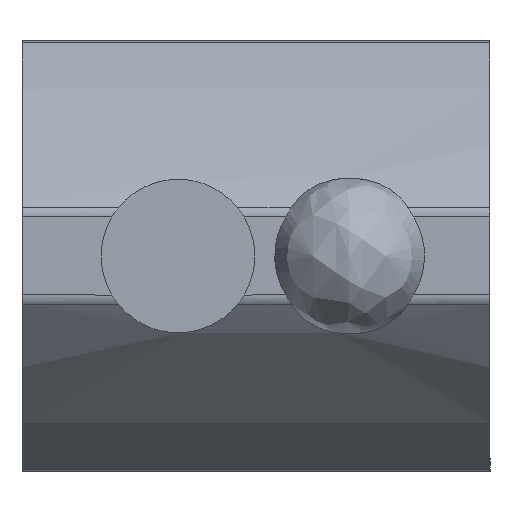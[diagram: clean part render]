
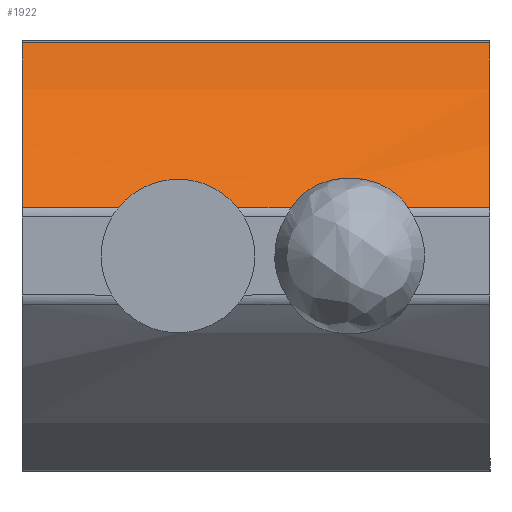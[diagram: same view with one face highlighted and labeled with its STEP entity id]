
A CAD part, left-side view. The second image highlights one B-rep face of the part: STEP entity #1922.
In plain terms, the highlighted cylindrical face has radius 20 mm (diameter 40 mm), a partial arc.
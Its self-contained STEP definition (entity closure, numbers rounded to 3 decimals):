
#6 = VERTEX_POINT ( 'NONE', #190 ) ;
#110 = CARTESIAN_POINT ( 'NONE',  ( -9.626, -8.938, -1.031 ) ) ;
#190 = CARTESIAN_POINT ( 'NONE',  ( -9.626, 6.062, -1.031 ) ) ;
#361 = ORIENTED_EDGE ( 'NONE', *, *, #1233, .T. ) ;
#418 = B_SPLINE_CURVE_WITH_KNOTS ( 'NONE', 3,
 ( #4752, #4823, #4781, #4849, #4845, #4890, #4856, #4921, #4902, #4973, #4968, #5410, #4999, #4991, #5020, #5016, #5405, #5425 ),
 .UNSPECIFIED., .F., .F.,
 ( 4, 2, 2, 2, 2, 2, 2, 2, 4 ),
 ( -0.002, -0.002, -0.001, -0.001, 0., 0.001, 0.001, 0.002, 0.002 ),
 .UNSPECIFIED. ) ;
#423 = ORIENTED_EDGE ( 'NONE', *, *, #3112, .T. ) ;
#497 = B_SPLINE_CURVE_WITH_KNOTS ( 'NONE', 3,
 ( #2908, #2789, #2770, #2721, #2696, #2673, #2401, #2353, #2326, #2300 ),
 .UNSPECIFIED., .F., .F.,
 ( 4, 2, 2, 2, 4 ),
 ( 0.001, 0.002, 0.002, 0.003, 0.003 ),
 .UNSPECIFIED. ) ;
#611 = LINE ( 'NONE', #6515, #4576 ) ;
#822 = ORIENTED_EDGE ( 'NONE', *, *, #4720, .T. ) ;
#886 = CARTESIAN_POINT ( 'NONE',  ( -14.975, -3.48, -5.554 ) ) ;
#898 = CARTESIAN_POINT ( 'NONE',  ( -15.043, -3.28, -5.636 ) ) ;
#912 = CARTESIAN_POINT ( 'NONE',  ( -15.131, -3.102, -5.743 ) ) ;
#929 = CARTESIAN_POINT ( 'NONE',  ( -15.337, -2.792, -6.002 ) ) ;
#973 = CARTESIAN_POINT ( 'NONE',  ( -15.574, -2.57, -6.313 ) ) ;
#1000 = CARTESIAN_POINT ( 'NONE',  ( -15.451, -2.667, -6.148 ) ) ;
#1233 = EDGE_CURVE ( 'NONE', #4429, #4412, #418, .T. ) ;
#1300 = LINE ( 'NONE', #6075, #2272 ) ;
#1318 = ORIENTED_EDGE ( 'NONE', *, *, #5620, .T. ) ;
#1319 = CARTESIAN_POINT ( 'NONE',  ( -14.975, -5.395, -5.554 ) ) ;
#1342 = CARTESIAN_POINT ( 'NONE',  ( 0.414, 6.062, -18.328 ) ) ;
#1348 = DIRECTION ( 'NONE',  ( 0., 0., -1. ) ) ;
#1370 = EDGE_CURVE ( 'NONE', #2418, #3776, #5181, .T. ) ;
#1402 = EDGE_LOOP ( 'NONE', ( #822, #361, #423, #3679, #5474, #2783, #4637, #1925, #1318, #1822 ) ) ;
#1449 = AXIS2_PLACEMENT_3D ( 'NONE', #1342, #1455, #1348 ) ;
#1455 = DIRECTION ( 'NONE',  ( 0., -1., 0. ) ) ;
#1476 = VECTOR ( 'NONE', #2914, 1000. ) ;
#1480 = EDGE_CURVE ( 'NONE', #3008, #1778, #5641, .T. ) ;
#1778 = VERTEX_POINT ( 'NONE', #2805 ) ;
#1791 = B_SPLINE_CURVE_WITH_KNOTS ( 'NONE', 3,
 ( #6023, #5951, #5492, #5444, #5011, #4505 ),
 .UNSPECIFIED., .F., .F.,
 ( 4, 2, 4 ),
 ( 0.003, 0.004, 0.005 ),
 .UNSPECIFIED. ) ;
#1822 = ORIENTED_EDGE ( 'NONE', *, *, #6324, .T. ) ;
#1916 = VERTEX_POINT ( 'NONE', #1319 ) ;
#1922 = ADVANCED_FACE ( 'NONE', ( #3364 ), #6462, .T. ) ;
#1925 = ORIENTED_EDGE ( 'NONE', *, *, #4492, .T. ) ;
#2272 = VECTOR ( 'NONE', #5963, 1000. ) ;
#2281 = DIRECTION ( 'NONE',  ( 0., 1., 0. ) ) ;
#2300 = CARTESIAN_POINT ( 'NONE',  ( -14.975, -5.395, -5.554 ) ) ;
#2303 = CIRCLE ( 'NONE', #5983, 20. ) ;
#2326 = CARTESIAN_POINT ( 'NONE',  ( -14.924, -5.247, -5.492 ) ) ;
#2336 = CARTESIAN_POINT ( 'NONE',  ( -15.574, 6.062, -6.313 ) ) ;
#2353 = CARTESIAN_POINT ( 'NONE',  ( -14.885, -5.093, -5.446 ) ) ;
#2401 = CARTESIAN_POINT ( 'NONE',  ( -14.832, -4.77, -5.384 ) ) ;
#2418 = VERTEX_POINT ( 'NONE', #3567 ) ;
#2673 = CARTESIAN_POINT ( 'NONE',  ( -14.819, -4.603, -5.368 ) ) ;
#2696 = CARTESIAN_POINT ( 'NONE',  ( -14.819, -4.272, -5.368 ) ) ;
#2721 = CARTESIAN_POINT ( 'NONE',  ( -14.832, -4.104, -5.384 ) ) ;
#2770 = CARTESIAN_POINT ( 'NONE',  ( -14.885, -3.782, -5.446 ) ) ;
#2783 = ORIENTED_EDGE ( 'NONE', *, *, #5538, .T. ) ;
#2789 = CARTESIAN_POINT ( 'NONE',  ( -14.924, -3.628, -5.492 ) ) ;
#2805 = CARTESIAN_POINT ( 'NONE',  ( -14.975, -3.48, -5.554 ) ) ;
#2872 = CARTESIAN_POINT ( 'NONE',  ( -15.574, 6.062, -6.313 ) ) ;
#2908 = CARTESIAN_POINT ( 'NONE',  ( -14.975, -3.48, -5.554 ) ) ;
#2914 = DIRECTION ( 'NONE',  ( 0., -1., 0. ) ) ;
#3008 = VERTEX_POINT ( 'NONE', #6426 ) ;
#3011 = LINE ( 'NONE', #5357, #3382 ) ;
#3112 = EDGE_CURVE ( 'NONE', #4412, #3008, #1300, .T. ) ;
#3364 = FACE_OUTER_BOUND ( 'NONE', #1402, .T. ) ;
#3382 = VECTOR ( 'NONE', #4735, 1000. ) ;
#3567 = CARTESIAN_POINT ( 'NONE',  ( -15.574, -6.305, -6.313 ) ) ;
#3679 = ORIENTED_EDGE ( 'NONE', *, *, #1480, .T. ) ;
#3776 = VERTEX_POINT ( 'NONE', #5900 ) ;
#4146 = CIRCLE ( 'NONE', #5887, 20. ) ;
#4242 = DIRECTION ( 'NONE',  ( 0., 0., -1. ) ) ;
#4309 = DIRECTION ( 'NONE',  ( 0., 1., 0. ) ) ;
#4354 = CARTESIAN_POINT ( 'NONE',  ( 0.414, -8.938, -18.328 ) ) ;
#4412 = VERTEX_POINT ( 'NONE', #6370 ) ;
#4429 = VERTEX_POINT ( 'NONE', #5950 ) ;
#4492 = EDGE_CURVE ( 'NONE', #3776, #6103, #2303, .T. ) ;
#4505 = CARTESIAN_POINT ( 'NONE',  ( -15.574, -6.305, -6.313 ) ) ;
#4527 = EDGE_CURVE ( 'NONE', #1778, #1916, #497, .T. ) ;
#4576 = VECTOR ( 'NONE', #2281, 1000. ) ;
#4637 = ORIENTED_EDGE ( 'NONE', *, *, #1370, .T. ) ;
#4720 = EDGE_CURVE ( 'NONE', #4901, #4429, #3011, .T. ) ;
#4735 = DIRECTION ( 'NONE',  ( 0., -1., 0. ) ) ;
#4752 = CARTESIAN_POINT ( 'NONE',  ( -15.574, 2.97, -6.313 ) ) ;
#4781 = CARTESIAN_POINT ( 'NONE',  ( -15.383, 2.744, -6.061 ) ) ;
#4823 = CARTESIAN_POINT ( 'NONE',  ( -15.476, 2.864, -6.182 ) ) ;
#4845 = CARTESIAN_POINT ( 'NONE',  ( -15.132, 2.324, -5.745 ) ) ;
#4849 = CARTESIAN_POINT ( 'NONE',  ( -15.211, 2.475, -5.843 ) ) ;
#4856 = CARTESIAN_POINT ( 'NONE',  ( -14.944, 1.822, -5.517 ) ) ;
#4890 = CARTESIAN_POINT ( 'NONE',  ( -14.999, 1.998, -5.582 ) ) ;
#4901 = VERTEX_POINT ( 'NONE', #2336 ) ;
#4902 = CARTESIAN_POINT ( 'NONE',  ( -14.85, 1.259, -5.405 ) ) ;
#4921 = CARTESIAN_POINT ( 'NONE',  ( -14.869, 1.45, -5.428 ) ) ;
#4968 = CARTESIAN_POINT ( 'NONE',  ( -14.869, 0.675, -5.428 ) ) ;
#4973 = CARTESIAN_POINT ( 'NONE',  ( -14.85, 0.866, -5.405 ) ) ;
#4991 = CARTESIAN_POINT ( 'NONE',  ( -15.132, -0.199, -5.745 ) ) ;
#4999 = CARTESIAN_POINT ( 'NONE',  ( -14.999, 0.127, -5.582 ) ) ;
#5011 = CARTESIAN_POINT ( 'NONE',  ( -15.451, -6.208, -6.148 ) ) ;
#5016 = CARTESIAN_POINT ( 'NONE',  ( -15.383, -0.619, -6.061 ) ) ;
#5020 = CARTESIAN_POINT ( 'NONE',  ( -15.211, -0.351, -5.844 ) ) ;
#5181 = LINE ( 'NONE', #2872, #1476 ) ;
#5357 = CARTESIAN_POINT ( 'NONE',  ( -15.574, 6.062, -6.313 ) ) ;
#5405 = CARTESIAN_POINT ( 'NONE',  ( -15.476, -0.739, -6.182 ) ) ;
#5410 = CARTESIAN_POINT ( 'NONE',  ( -14.944, 0.304, -5.517 ) ) ;
#5425 = CARTESIAN_POINT ( 'NONE',  ( -15.574, -0.846, -6.313 ) ) ;
#5444 = CARTESIAN_POINT ( 'NONE',  ( -15.336, -6.082, -6.001 ) ) ;
#5474 = ORIENTED_EDGE ( 'NONE', *, *, #4527, .T. ) ;
#5492 = CARTESIAN_POINT ( 'NONE',  ( -15.13, -5.772, -5.742 ) ) ;
#5538 = EDGE_CURVE ( 'NONE', #1916, #2418, #1791, .T. ) ;
#5620 = EDGE_CURVE ( 'NONE', #6103, #6, #611, .T. ) ;
#5641 = B_SPLINE_CURVE_WITH_KNOTS ( 'NONE', 3,
 ( #973, #1000, #929, #912, #898, #886 ),
 .UNSPECIFIED., .F., .F.,
 ( 4, 2, 4 ),
 ( 0., 0.001, 0.001 ),
 .UNSPECIFIED. ) ;
#5887 = AXIS2_PLACEMENT_3D ( 'NONE', #6281, #6543, #6526 ) ;
#5900 = CARTESIAN_POINT ( 'NONE',  ( -15.574, -8.938, -6.313 ) ) ;
#5950 = CARTESIAN_POINT ( 'NONE',  ( -15.574, 2.97, -6.313 ) ) ;
#5951 = CARTESIAN_POINT ( 'NONE',  ( -15.043, -5.595, -5.636 ) ) ;
#5963 = DIRECTION ( 'NONE',  ( 0., -1., 0. ) ) ;
#5983 = AXIS2_PLACEMENT_3D ( 'NONE', #4354, #4309, #4242 ) ;
#6023 = CARTESIAN_POINT ( 'NONE',  ( -14.975, -5.395, -5.554 ) ) ;
#6075 = CARTESIAN_POINT ( 'NONE',  ( -15.574, 6.062, -6.313 ) ) ;
#6103 = VERTEX_POINT ( 'NONE', #110 ) ;
#6281 = CARTESIAN_POINT ( 'NONE',  ( 0.414, 6.062, -18.328 ) ) ;
#6324 = EDGE_CURVE ( 'NONE', #6, #4901, #4146, .T. ) ;
#6370 = CARTESIAN_POINT ( 'NONE',  ( -15.574, -0.846, -6.313 ) ) ;
#6426 = CARTESIAN_POINT ( 'NONE',  ( -15.574, -2.57, -6.313 ) ) ;
#6462 = CYLINDRICAL_SURFACE ( 'NONE', #1449, 20. ) ;
#6515 = CARTESIAN_POINT ( 'NONE',  ( -9.626, 6.062, -1.031 ) ) ;
#6526 = DIRECTION ( 'NONE',  ( 0., 0., -1. ) ) ;
#6543 = DIRECTION ( 'NONE',  ( 0., -1., 0. ) ) ;
